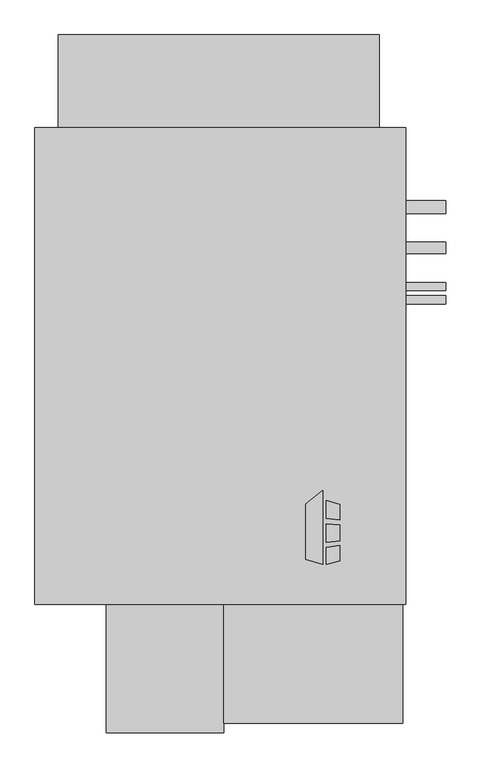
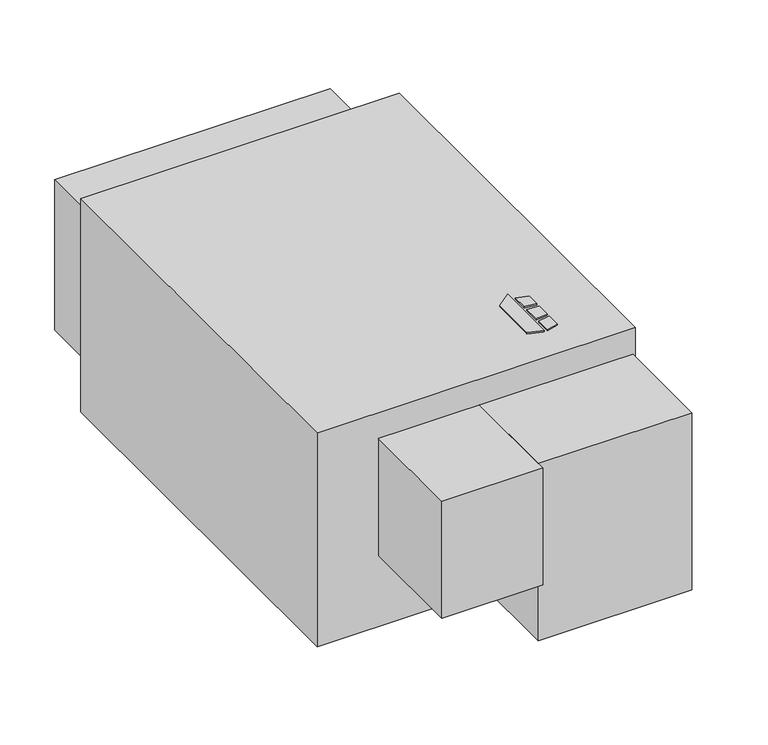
"""IFC4 building model written with IfcOpenShell, lengths in millimetres: proxy geometry, Horizontal_Direct_Drive_Blower_Coil_Unit_-_HDY_-_IEC_-_4-Pipe_RH_2022 : Size 06 - 460v/60Hz/3Ph - 6/2 Coil."""

import ifcopenshell
import ifcopenshell.guid

model = None  # the IFC model being written
_history = None  # IfcOwnerHistory: only IFC2X3 demands one
_inside = {}  # id of a spatial element -> (the spatial element, [elements in it])
_under = {}  # id of a project, library or spatial element -> (it, [spatial elements below it])
_declared = {}  # id of a project -> (the project, [libraries it declares])
_typed = {}  # id of a type object -> (the type object, [elements of that type])
_made_of = {}  # id of a material, layer set ... -> (it, [elements and type objects made of it])


def new_model(schema):
    """Start an empty IFC model of exactly this schema.

    Asked for "IFC4X3", IfcOpenShell would pick the latest addendum, in which some entities
    have other attributes; the version numbers below select the first issue.
    IFC2X3 requires an IfcOwnerHistory on every rooted entity: one is made here for all.
    """
    global model, _history
    if schema == "IFC4X3":
        model = ifcopenshell.file(schema_version=(4, 3, 0, 0))
    else:
        model = ifcopenshell.file(schema=schema)
    _inside.clear()
    _under.clear()
    _declared.clear()
    _typed.clear()
    _made_of.clear()
    _history = None
    if model.schema == "IFC2X3":
        org = make("IfcOrganization", Name="unknown")
        user = make(
            "IfcPersonAndOrganization",
            ThePerson=make("IfcPerson", FamilyName="unknown"),
            TheOrganization=org,
        )
        app = make(
            "IfcApplication",
            ApplicationDeveloper=org,
            Version="unknown",
            ApplicationFullName="unknown",
            ApplicationIdentifier="unknown",
        )
        _history = make(
            "IfcOwnerHistory",
            OwningUser=user,
            OwningApplication=app,
            ChangeAction="ADDED",
            CreationDate=0,
        )
    return model


def make(cls, **values):
    """One entity of the class cls with the attributes given. An attribute that is None is left unset."""
    return model.create_entity(
        cls, **{name: value for name, value in values.items() if value is not None}
    )


def rooted(cls, **values):
    """An entity with a GlobalId (a new one), such as an element, a storey or a relation."""
    return make(cls, GlobalId=ifcopenshell.guid.new(), OwnerHistory=_history, **values)


def si_unit(unit_type, name, prefix=None):
    """IfcSIUnit, for example si_unit("LENGTHUNIT", "METRE", prefix="MILLI")."""
    return make("IfcSIUnit", UnitType=unit_type, Prefix=prefix, Name=name)


def assignment(units):
    """IfcUnitAssignment: the units of a project."""
    return None if units is None else make("IfcUnitAssignment", Units=units)


def point(xyz):
    """IfcCartesianPoint."""
    return None if xyz is None else make("IfcCartesianPoint", Coordinates=xyz)


def direction(xyz):
    """IfcDirection."""
    return None if xyz is None else make("IfcDirection", DirectionRatios=xyz)


def frame(location, z_axis=None, x_axis=None):
    """IfcAxis2Placement3D, a coordinate frame: its origin and axes. An axis left out is left unset."""
    return make(
        "IfcAxis2Placement3D",
        Location=point(location),
        Axis=direction(z_axis),
        RefDirection=direction(x_axis),
    )


def frame_2d(location, x_axis=None):
    """IfcAxis2Placement2D, a coordinate frame in the plane: its origin and x axis."""
    return make(
        "IfcAxis2Placement2D", Location=point(location), RefDirection=direction(x_axis)
    )


def origin():
    """The frame at (0, 0, 0) with its axes left unset."""
    return frame((0.0, 0.0, 0.0))


def origin_with_axes():
    """The frame at (0, 0, 0) with the z axis (0, 0, 1) and the x axis (1, 0, 0) written out."""
    return frame((0.0, 0.0, 0.0), z_axis=(0.0, 0.0, 1.0), x_axis=(1.0, 0.0, 0.0))


def place(relative_to, where):
    """IfcLocalPlacement: puts the frame where relative to a parent placement (None: the world)."""
    return make(
        "IfcLocalPlacement", PlacementRelTo=relative_to, RelativePlacement=where
    )


def context(
    kind, dimensions, precision=None, world=None, true_north=None, identifier=None
):
    """IfcGeometricRepresentationContext, for example the 3D "Model" context."""
    return make(
        "IfcGeometricRepresentationContext",
        ContextIdentifier=identifier,
        ContextType=kind,
        CoordinateSpaceDimension=dimensions,
        Precision=precision,
        WorldCoordinateSystem=world,
        TrueNorth=true_north,
    )


def project(units=None, contexts=None):
    """IfcProject with its units and contexts."""
    return rooted(
        "IfcProject",
        Name="project",
        RepresentationContexts=contexts,
        UnitsInContext=assignment(units),
    )


def spatial(cls, under=None, at=None, **own):
    """A site, building, storey or space (cls), placed at a placement, below another one or the project."""
    s = rooted(cls, ObjectPlacement=at, **own)
    if under is not None:
        _under.setdefault(under.id(), (under, []))[1].append(s)
    return s


def polyline(points):
    """IfcPolyline through the points."""
    return make("IfcPolyline", Points=[point(p) for p in points])


def circle_curve(where, radius):
    """IfcCircle in the frame where."""
    return make("IfcCircle", Position=where, Radius=radius)


def trimmed(basis, trim1, trim2, sense, master):
    """IfcTrimmedCurve: the piece of a basis curve between two trims."""
    return make(
        "IfcTrimmedCurve",
        BasisCurve=basis,
        Trim1=trim1,
        Trim2=trim2,
        SenseAgreement=sense,
        MasterRepresentation=master,
    )


def segment(curve, same_sense, transition):
    """IfcCompositeCurveSegment."""
    return make(
        "IfcCompositeCurveSegment",
        Transition=transition,
        SameSense=same_sense,
        ParentCurve=curve,
    )


def composite_curve(segments, self_intersect=None):
    """IfcCompositeCurve: segments joined end to end."""
    return make("IfcCompositeCurve", Segments=segments, SelfIntersect=self_intersect)


def outline(outer, holes=None, kind="AREA"):
    """IfcArbitraryClosedProfileDef: a profile drawn as a closed curve; with holes, ...WithVoids."""
    if holes is None:
        return make("IfcArbitraryClosedProfileDef", ProfileType=kind, OuterCurve=outer)
    return make(
        "IfcArbitraryProfileDefWithVoids",
        ProfileType=kind,
        OuterCurve=outer,
        InnerCurves=holes,
    )


def extrude(swept, where, along, depth):
    """IfcExtrudedAreaSolid: the profile swept, set in the frame where, extruded along a direction by depth."""
    return make(
        "IfcExtrudedAreaSolid",
        SweptArea=swept,
        Position=where,
        ExtrudedDirection=direction(along),
        Depth=depth,
    )


def shape(context_of_items, identifier, shape_type, items):
    """IfcShapeRepresentation: the items that make up one representation, for example the "Body"."""
    return make(
        "IfcShapeRepresentation",
        ContextOfItems=context_of_items,
        RepresentationIdentifier=identifier,
        RepresentationType=shape_type,
        Items=items,
    )


def source(mapping_origin, context_of_items, identifier, shape_type, items):
    """IfcRepresentationMap: a shape defined once, which mapped items show again and again."""
    return make(
        "IfcRepresentationMap",
        MappingOrigin=mapping_origin,
        MappedRepresentation=shape(context_of_items, identifier, shape_type, items),
    )


def transform(
    local_origin,
    x_axis=None,
    y_axis=None,
    z_axis=None,
    scale=None,
    scale2=None,
    scale3=None,
    uniform=True,
):
    """IfcCartesianTransformationOperator3D, or its non-uniform kind. x_axis, y_axis, z_axis: its Axis1, 2, 3."""
    if uniform:
        return make(
            "IfcCartesianTransformationOperator3D",
            Axis1=direction(x_axis),
            Axis2=direction(y_axis),
            LocalOrigin=point(local_origin),
            Scale=scale,
            Axis3=direction(z_axis),
        )
    return make(
        "IfcCartesianTransformationOperator3DnonUniform",
        Axis1=direction(x_axis),
        Axis2=direction(y_axis),
        LocalOrigin=point(local_origin),
        Scale=scale,
        Axis3=direction(z_axis),
        Scale2=scale2,
        Scale3=scale3,
    )


def mapped(mapping_source, mapping_target):
    """IfcMappedItem: shows the shape of a source again, moved by a transform."""
    return make(
        "IfcMappedItem", MappingSource=mapping_source, MappingTarget=mapping_target
    )


def made_of(thing, what):
    """Note that an element or type object is made of a material, layer set ...; save() writes the relation."""
    if what is not None:
        _made_of.setdefault(what.id(), (what, []))[1].append(thing)
    return thing


def element(
    cls,
    number,
    at=None,
    inside=None,
    cuts=None,
    type_object=None,
    material=None,
    context=None,
    identifier="Body",
    shape_type=None,
    held_by="IfcProductDefinitionShape",
    body=None,
    shapes=None,
    **own,
):
    """One element of the class cls, such as IfcWall. Its Tag is "e" and its number.

    at: its placement. inside: the storey or other place that contains it. cuts: it is an
    opening in that element (IfcRelVoidsElement). A single representation is given by context,
    identifier, shape_type and body (its items); several are given by shapes. held_by: the class
    of the entity that holds the representations. save() writes the other relations.
    """
    e = rooted(cls, Tag="e%d" % number, ObjectPlacement=at, **own)
    if body is not None:
        shapes = [shape(context, identifier, shape_type, body)]
    if shapes is not None:
        e.Representation = make(held_by, Representations=shapes)
    if inside is not None:
        _inside.setdefault(inside.id(), (inside, []))[1].append(e)
    if cuts is not None:
        rooted(
            "IfcRelVoidsElement", RelatingBuildingElement=cuts, RelatedOpeningElement=e
        )
    if type_object is not None:
        _typed.setdefault(type_object.id(), (type_object, []))[1].append(e)
    return made_of(e, material)


def aggregate(whole, parts):
    """IfcRelAggregates: a whole, such as a stair, and the parts it consists of."""
    return rooted("IfcRelAggregates", RelatingObject=whole, RelatedObjects=parts)


def save(model, path):
    """Write the relations noted so far, then the file.

    IfcRelAggregates (storeys below a building ...), IfcRelContainedInSpatialStructure (elements
    in a storey), IfcRelDefinesByType, IfcRelAssociatesMaterial and IfcRelDeclares: one each for
    every whole, place, type object, material and project.
    """
    for whole, parts in _under.values():
        aggregate(whole, parts)
    for where, things in _inside.values():
        rooted(
            "IfcRelContainedInSpatialStructure",
            RelatedElements=things,
            RelatingStructure=where,
        )
    for kind, things in _typed.values():
        rooted("IfcRelDefinesByType", RelatedObjects=things, RelatingType=kind)
    for what, things in _made_of.values():
        rooted("IfcRelAssociatesMaterial", RelatedObjects=things, RelatingMaterial=what)
    for by, libraries in _declared.values():
        rooted("IfcRelDeclares", RelatingContext=by, RelatedDefinitions=libraries)
    model.write(path)


def mechanical_equipment_1f7e3544(model_context):
    return source(origin(), model_context, "Body", "SweptSolid", [
        extrude(outline(polyline([(-547.9980239, -229.5578476), (-515.4397272, -204.1205184), (-515.4397272, -346.075), (-547.9980239, -335.8554201), (-547.9980239, -229.5578476)])), origin_with_axes(), (0.0, 0.0, 1.0), 3.175),
        extrude(outline(polyline([(-508.6813942, -257.429852), (-508.6813942, -222.9499379), (-482.6, -231.1365115), (-482.6, -260.6322446), (-508.6813942, -257.429852)])), origin_with_axes(), (0.0, 0.0, 1.0), 3.175),
        extrude(outline(polyline([(-482.6, -339.0865115), (-508.6813942, -346.075), (-508.6813942, -312.8536996), (-482.6, -309.3118564), (-482.6, -339.0865115)])), origin_with_axes(), (0.0, 0.0, 1.0), 3.175),
        extrude(outline(polyline([(-482.6, -269.7138277), (-482.6, -300.963983), (-508.6813942, -303.705248), (-508.6813942, -267.8475378), (-482.6, -269.7138277)])), origin_with_axes(), (0.0, 0.0, 1.0), 3.175),
        extrude(outline(polyline([(-355.6, 492.125), (-355.6, -422.275), (-1066.8, -422.275), (-1066.8, 492.125), (-355.6, 492.125)])), frame((0.0, 0.0, -504.8058174), z_axis=(0.0, 0.0, 1.0), x_axis=(1.0, 0.0, 0.0)), (0.0, 0.0, 1.0), 504.8058174),
        extrude(outline(polyline([(-361.95, -650.875), (-704.85, -650.875), (-704.85, -422.275), (-361.95, -422.275), (-361.95, -650.875)])), frame((0.0, 0.0, -479.4058174), z_axis=(0.0, 0.0, 1.0), x_axis=(1.0, 0.0, 0.0)), (0.0, 0.0, 1.0), 419.1),
        extrude(outline(composite_curve([segment(trimmed(circle_curve(frame_2d((339.725, -180.7500418)), 12.7), [point((352.425, -180.7500418))], [point((327.025, -180.7500418))], False, "CARTESIAN"), True, "CONTINUOUS"), segment(trimmed(circle_curve(frame_2d((339.725, -180.7500418)), 12.7), [point((327.025, -180.7500418))], [point((352.425, -180.7500418))], False, "CARTESIAN"), True, "CONTINUOUS")], self_intersect=False)), frame((-355.6, 0.0, 0.0), z_axis=(1.0, 0.0, 0.0), x_axis=(0.0, 1.0, 0.0)), (0.0, 0.0, 1.0), 76.2),
        extrude(outline(composite_curve([segment(trimmed(circle_curve(frame_2d((339.725, -377.8058174)), 12.7), [point((352.425, -377.8058174))], [point((327.025, -377.8058174))], False, "CARTESIAN"), True, "CONTINUOUS"), segment(trimmed(circle_curve(frame_2d((339.725, -377.8058174)), 12.7), [point((327.025, -377.8058174))], [point((352.425, -377.8058174))], False, "CARTESIAN"), True, "CONTINUOUS")], self_intersect=False)), frame((-355.6, 0.0, 0.0), z_axis=(1.0, 0.0, 0.0), x_axis=(0.0, 1.0, 0.0)), (0.0, 0.0, 1.0), 76.2),
        extrude(outline(composite_curve([segment(trimmed(circle_curve(frame_2d((261.7604089, -460.3558174)), 11.1125), [point((272.8729089, -460.3558174))], [point((250.6479089, -460.3558174))], False, "CARTESIAN"), True, "CONTINUOUS"), segment(trimmed(circle_curve(frame_2d((261.7604089, -460.3558174)), 11.1125), [point((250.6479089, -460.3558174))], [point((272.8729089, -460.3558174))], False, "CARTESIAN"), True, "CONTINUOUS")], self_intersect=False)), frame((-355.6, 0.0, 0.0), z_axis=(1.0, 0.0, 0.0), x_axis=(0.0, 1.0, 0.0)), (0.0, 0.0, 1.0), 76.2),
        extrude(outline(composite_curve([segment(trimmed(circle_curve(frame_2d((187.325, -231.7558174)), 7.9375), [point((195.2625, -231.7558174))], [point((179.3875, -231.7558174))], False, "CARTESIAN"), True, "CONTINUOUS"), segment(trimmed(circle_curve(frame_2d((187.325, -231.7558174)), 7.9375), [point((179.3875, -231.7558174))], [point((195.2625, -231.7558174))], False, "CARTESIAN"), True, "CONTINUOUS")], self_intersect=False)), frame((-355.6, 0.0, 0.0), z_axis=(1.0, 0.0, 0.0), x_axis=(0.0, 1.0, 0.0)), (0.0, 0.0, 1.0), 76.2),
        extrude(outline(composite_curve([segment(trimmed(circle_curve(frame_2d((161.925, -327.0058174)), 7.9375), [point((169.8625, -327.0058174))], [point((153.9875, -327.0058174))], False, "CARTESIAN"), True, "CONTINUOUS"), segment(trimmed(circle_curve(frame_2d((161.925, -327.0058174)), 7.9375), [point((153.9875, -327.0058174))], [point((169.8625, -327.0058174))], False, "CARTESIAN"), True, "CONTINUOUS")], self_intersect=False)), frame((-355.6, 0.0, 0.0), z_axis=(1.0, 0.0, 0.0), x_axis=(0.0, 1.0, 0.0)), (0.0, 0.0, 1.0), 76.2),
        extrude(outline(polyline([(-1022.35, 669.925), (-406.4, 669.925), (-406.4, 492.125), (-1022.35, 492.125), (-1022.35, 669.925)])), frame((0.0, 0.0, -434.9558174), z_axis=(0.0, 0.0, 1.0), x_axis=(1.0, 0.0, 0.0)), (0.0, 0.0, 1.0), 355.6),
        extrude(outline(polyline([(-704.85, -668.3375), (-930.275, -668.3375), (-930.275, -422.275), (-704.85, -422.275), (-704.85, -668.3375)])), frame((0.0, 0.0, -336.5308174), z_axis=(0.0, 0.0, 1.0), x_axis=(1.0, 0.0, 0.0)), (0.0, 0.0, 1.0), 276.225),
    ])


if __name__ == "__main__":
    model = new_model("IFC4")
    model_context = context("Model", 3, world=origin())
    ifc_project = project(units=[si_unit("LENGTHUNIT", "METRE", prefix="MILLI")], contexts=[model_context])
    site = spatial("IfcSite", under=ifc_project)
    building = spatial("IfcBuilding", under=site)
    placement = place(None, origin())
    mechanical_equipment_shape = mechanical_equipment_1f7e3544(model_context)
    element("IfcBuildingElementProxy", 1, Name="Horizontal_Direct_Drive_Blower_Coil_Unit_-_HDY_-_IEC_-_4-Pipe_RH_2022 : Size 06 - 460v/60Hz/3Ph - 6/2 Coil", ObjectType="Horizontal_Direct_Drive_Blower_Coil_Unit_-_HDY_-_IEC_-_4-Pipe_RH_2022 : Size 06 - 460v/60Hz/3Ph - 6/2 Coil", at=placement, inside=building, context=model_context, shape_type="MappedRepresentation", body=[
        mapped(mechanical_equipment_shape, transform((0.0, 0.0, 0.0), x_axis=(1.0, 0.0, 0.0), y_axis=(0.0, 1.0, 0.0), z_axis=(0.0, 0.0, 1.0))),
    ])
    save(model, "model.ifc")
